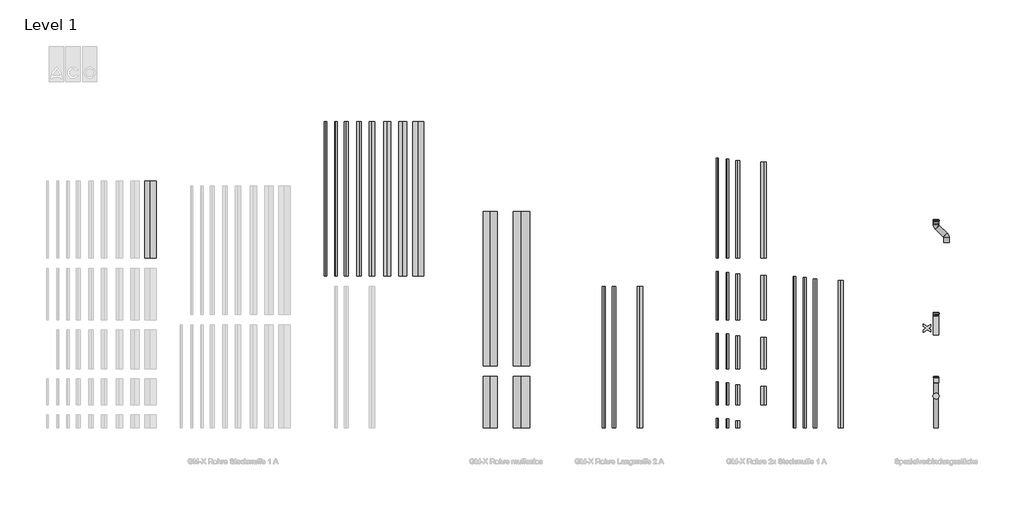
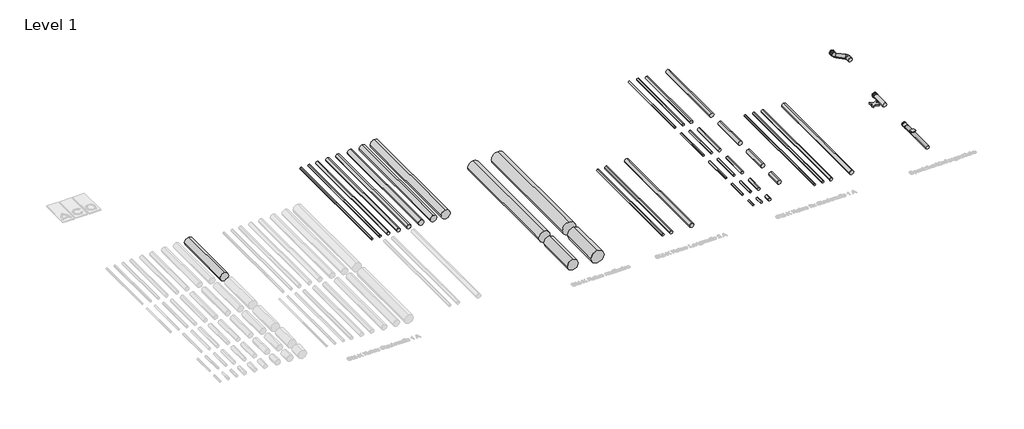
# One storey, part 5 of 7: 39 pipe segments, 4 pipe fittings, 2 valves.
"""IFC4 building model written with IfcOpenShell, lengths in millimetres."""

from ifc_helpers import new_model, si_unit, point, frame, frame_2d, origin, place, context, project, spatial, circle_curve, trimmed, segment, composite_curve, outline, extrude, transform, mapped, element, save
from components import std_49879931, std_nested_473bf3f7, std_nested_0415c611, dn100_200mm_8a0e546f, dn100_200mm_64a89e8e

model = new_model("IFC4")

# Units and contexts
model_context = context("Model", 3, world=origin())
ifc_project = project(units=[si_unit("LENGTHUNIT", "METRE", prefix="MILLI")], contexts=[model_context])

# Site, building, storey
site = spatial("IfcSite", under=ifc_project)
building = spatial("IfcBuilding", under=site)
storey = spatial("IfcBuildingStorey", under=building, Name="Level 1", Elevation=0.0)

# Pipe fittings
placement = place(None, origin())
std_shape = std_49879931(model_context)
element("IfcPipeFitting", 1, ObjectType="PIF_ST_UN_GM-X raindown pipe_ACO : std", at=placement, inside=storey, context=model_context, shape_type="MappedRepresentation", body=[
    mapped(std_shape, transform((17750.0, 435.0, 0.0), x_axis=(0.0, 1.0000000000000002, 0.0), y_axis=(-1.0000000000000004, 0.0, 0.0), z_axis=(0.0, 0.0, 1.0000000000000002))),
])
std_nested_shape = std_nested_473bf3f7(model_context)
element("IfcPipeFitting", 2, ObjectType="ZZZ_do not use_PIF_ST_UN_GM-X seal non transitional_ACO : std (nested)", at=placement, inside=storey, context=model_context, shape_type="MappedRepresentation", body=[
    mapped(std_nested_shape, transform((17750.0, 2241.8, 0.0), x_axis=(0.0, 1.0, 0.0), y_axis=(-1.0000000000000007, 0.0, 0.0), z_axis=(0.0, 0.0, 1.0000000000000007))),
])
element("IfcPipeFitting", 3, ObjectType="ZZZ_do not use_PIF_ST_UN_GM-X seal non transitional_ACO : std (nested)", at=placement, inside=storey, context=model_context, shape_type="MappedRepresentation", body=[
    mapped(std_nested_shape, transform((17750.0, 4043.6, 0.0), x_axis=(0.0, 1.0, 0.0), y_axis=(-1.0000000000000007, 0.0, 0.0), z_axis=(0.0, 0.0, 1.0000000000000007))),
])
std_nested_2_shape = std_nested_0415c611(model_context)
element("IfcPipeFitting", 4, ObjectType="ZZZ_do not use_PIF_ST_UN_GM-X seal non transitional_ACO : std (nested)", at=placement, inside=storey, context=model_context, shape_type="MappedRepresentation", body=[
    mapped(std_nested_2_shape, transform((17750.0, 1000.0, 0.0), x_axis=(0.0, 1.0000000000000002, 0.0), y_axis=(-1.0000000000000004, 0.0, 0.0), z_axis=(0.0, 0.0, 1.0000000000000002))),
])

# Pipe segments
element("IfcPipeSegment", 5, ObjectType="GM-X pipe complex", at=placement, inside=storey, context=model_context, shape_type="SweptSolid", body=[
    extrude(outline(composite_curve([segment(trimmed(circle_curve(frame_2d((0.0, 2500.0)), 109.5), [point((0.0, 2609.5))], [point((109.5, 2500.0))], False, "CARTESIAN"), True, "CONTINUOUS"), segment(trimmed(circle_curve(frame_2d((0.0, 2500.0)), 109.5), [point((109.5, 2500.0))], [point((0.0, 2390.5))], False, "CARTESIAN"), True, "CONTINUOUS"), segment(trimmed(circle_curve(frame_2d((0.0, 2500.0)), 109.5), [point((0.0, 2390.5))], [point((-109.5, 2500.0))], False, "CARTESIAN"), True, "CONTINUOUS"), segment(trimmed(circle_curve(frame_2d((0.0, 2500.0)), 109.5), [point((-109.5, 2500.0))], [point((0.0, 2609.5))], False, "CARTESIAN"), True, "CONTINUOUS")], self_intersect=False)), frame((0.0, 3300.0, 0.0), z_axis=(0.0, 1.0, 0.0), x_axis=(0.0, 0.0, 1.0)), (0.0, 0.0, 1.0), 1500.0),
])
element("IfcPipeSegment", 6, ObjectType="GM-X pipe complex", at=placement, inside=storey, context=model_context, shape_type="SweptSolid", body=[
    extrude(outline(composite_curve([segment(trimmed(circle_curve(frame_2d((0.0, 5900.0)), 21.5), [point((0.0, 5921.5))], [point((21.5, 5900.0))], False, "CARTESIAN"), True, "CONTINUOUS"), segment(trimmed(circle_curve(frame_2d((0.0, 5900.0)), 21.5), [point((21.5, 5900.0))], [point((0.0, 5878.5))], False, "CARTESIAN"), True, "CONTINUOUS"), segment(trimmed(circle_curve(frame_2d((0.0, 5900.0)), 21.5), [point((0.0, 5878.5))], [point((-21.5, 5900.0))], False, "CARTESIAN"), True, "CONTINUOUS"), segment(trimmed(circle_curve(frame_2d((0.0, 5900.0)), 21.5), [point((-21.5, 5900.0))], [point((0.0, 5921.5))], False, "CARTESIAN"), True, "CONTINUOUS")], self_intersect=False)), frame((0.0, 2950.0, 0.0), z_axis=(0.0, 1.0, 0.0), x_axis=(0.0, 0.0, 1.0)), (0.0, 0.0, 1.0), 3000.0),
])
element("IfcPipeSegment", 7, ObjectType="GM-X pipe complex", at=placement, inside=storey, context=model_context, shape_type="SweptSolid", body=[
    extrude(outline(composite_curve([segment(trimmed(circle_curve(frame_2d((0.0, 6100.0)), 26.5), [point((0.0, 6126.5))], [point((26.5, 6100.0))], False, "CARTESIAN"), True, "CONTINUOUS"), segment(trimmed(circle_curve(frame_2d((0.0, 6100.0)), 26.5), [point((26.5, 6100.0))], [point((0.0, 6073.5))], False, "CARTESIAN"), True, "CONTINUOUS"), segment(trimmed(circle_curve(frame_2d((0.0, 6100.0)), 26.5), [point((0.0, 6073.5))], [point((-26.5, 6100.0))], False, "CARTESIAN"), True, "CONTINUOUS"), segment(trimmed(circle_curve(frame_2d((0.0, 6100.0)), 26.5), [point((-26.5, 6100.0))], [point((0.0, 6126.5))], False, "CARTESIAN"), True, "CONTINUOUS")], self_intersect=False)), frame((0.0, 2950.0, 0.0), z_axis=(0.0, 1.0, 0.0), x_axis=(0.0, 0.0, 1.0)), (0.0, 0.0, 1.0), 3000.0),
])
element("IfcPipeSegment", 8, ObjectType="GM-X pipe complex", at=placement, inside=storey, context=model_context, shape_type="SweptSolid", body=[
    extrude(outline(composite_curve([segment(trimmed(circle_curve(frame_2d((0.0, 6300.0)), 36.5), [point((0.0, 6336.5))], [point((36.5, 6300.0))], False, "CARTESIAN"), True, "CONTINUOUS"), segment(trimmed(circle_curve(frame_2d((0.0, 6300.0)), 36.5), [point((36.5, 6300.0))], [point((0.0, 6263.5))], False, "CARTESIAN"), True, "CONTINUOUS"), segment(trimmed(circle_curve(frame_2d((0.0, 6300.0)), 36.5), [point((0.0, 6263.5))], [point((-36.5, 6300.0))], False, "CARTESIAN"), True, "CONTINUOUS"), segment(trimmed(circle_curve(frame_2d((0.0, 6300.0)), 36.5), [point((-36.5, 6300.0))], [point((0.0, 6336.5))], False, "CARTESIAN"), True, "CONTINUOUS")], self_intersect=False)), frame((0.0, 2950.0, 0.0), z_axis=(0.0, 1.0, 0.0), x_axis=(0.0, 0.0, 1.0)), (0.0, 0.0, 1.0), 3000.0),
])
element("IfcPipeSegment", 9, ObjectType="GM-X pipe complex", at=placement, inside=storey, context=model_context, shape_type="SweptSolid", body=[
    extrude(outline(composite_curve([segment(trimmed(circle_curve(frame_2d((0.0, 6550.0)), 44.5), [point((0.0, 6594.5))], [point((44.5, 6550.0))], False, "CARTESIAN"), True, "CONTINUOUS"), segment(trimmed(circle_curve(frame_2d((0.0, 6550.0)), 44.5), [point((44.5, 6550.0))], [point((0.0, 6505.5))], False, "CARTESIAN"), True, "CONTINUOUS"), segment(trimmed(circle_curve(frame_2d((0.0, 6550.0)), 44.5), [point((0.0, 6505.5))], [point((-44.5, 6550.0))], False, "CARTESIAN"), True, "CONTINUOUS"), segment(trimmed(circle_curve(frame_2d((0.0, 6550.0)), 44.5), [point((-44.5, 6550.0))], [point((0.0, 6594.5))], False, "CARTESIAN"), True, "CONTINUOUS")], self_intersect=False)), frame((0.0, 2950.0, 0.0), z_axis=(0.0, 1.0, 0.0), x_axis=(0.0, 0.0, 1.0)), (0.0, 0.0, 1.0), 3000.0),
])
element("IfcPipeSegment", 10, ObjectType="GM-X pipe complex", at=placement, inside=storey, context=model_context, shape_type="SweptSolid", body=[
    extrude(outline(composite_curve([segment(trimmed(circle_curve(frame_2d((0.0, 6800.0)), 51.5), [point((0.0, 6851.5))], [point((51.5, 6800.0))], False, "CARTESIAN"), True, "CONTINUOUS"), segment(trimmed(circle_curve(frame_2d((0.0, 6800.0)), 51.5), [point((51.5, 6800.0))], [point((0.0, 6748.5))], False, "CARTESIAN"), True, "CONTINUOUS"), segment(trimmed(circle_curve(frame_2d((0.0, 6800.0)), 51.5), [point((0.0, 6748.5))], [point((-51.5, 6800.0))], False, "CARTESIAN"), True, "CONTINUOUS"), segment(trimmed(circle_curve(frame_2d((0.0, 6800.0)), 51.5), [point((-51.5, 6800.0))], [point((0.0, 6851.5))], False, "CARTESIAN"), True, "CONTINUOUS")], self_intersect=False)), frame((0.0, 2950.0, 0.0), z_axis=(0.0, 1.0, 0.0), x_axis=(0.0, 0.0, 1.0)), (0.0, 0.0, 1.0), 3000.0),
])
element("IfcPipeSegment", 11, ObjectType="GM-X pipe complex", at=placement, inside=storey, context=model_context, shape_type="SweptSolid", body=[
    extrude(outline(composite_curve([segment(trimmed(circle_curve(frame_2d((0.0, 7100.0)), 66.5), [point((0.0, 7166.5))], [point((66.5, 7100.0))], False, "CARTESIAN"), True, "CONTINUOUS"), segment(trimmed(circle_curve(frame_2d((0.0, 7100.0)), 66.5), [point((66.5, 7100.0))], [point((0.0, 7033.5))], False, "CARTESIAN"), True, "CONTINUOUS"), segment(trimmed(circle_curve(frame_2d((0.0, 7100.0)), 66.5), [point((0.0, 7033.5))], [point((-66.5, 7100.0))], False, "CARTESIAN"), True, "CONTINUOUS"), segment(trimmed(circle_curve(frame_2d((0.0, 7100.0)), 66.5), [point((-66.5, 7100.0))], [point((0.0, 7166.5))], False, "CARTESIAN"), True, "CONTINUOUS")], self_intersect=False)), frame((0.0, 2950.0, 0.0), z_axis=(0.0, 1.0, 0.0), x_axis=(0.0, 0.0, 1.0)), (0.0, 0.0, 1.0), 3000.0),
])
element("IfcPipeSegment", 12, ObjectType="GM-X pipe complex", at=placement, inside=storey, context=model_context, shape_type="SweptSolid", body=[
    extrude(outline(composite_curve([segment(trimmed(circle_curve(frame_2d((0.0, 7400.0)), 79.5), [point((0.0, 7479.5))], [point((79.5, 7400.0))], False, "CARTESIAN"), True, "CONTINUOUS"), segment(trimmed(circle_curve(frame_2d((0.0, 7400.0)), 79.5), [point((79.5, 7400.0))], [point((0.0, 7320.5))], False, "CARTESIAN"), True, "CONTINUOUS"), segment(trimmed(circle_curve(frame_2d((0.0, 7400.0)), 79.5), [point((0.0, 7320.5))], [point((-79.5, 7400.0))], False, "CARTESIAN"), True, "CONTINUOUS"), segment(trimmed(circle_curve(frame_2d((0.0, 7400.0)), 79.5), [point((-79.5, 7400.0))], [point((0.0, 7479.5))], False, "CARTESIAN"), True, "CONTINUOUS")], self_intersect=False)), frame((0.0, 2950.0, 0.0), z_axis=(0.0, 1.0, 0.0), x_axis=(0.0, 0.0, 1.0)), (0.0, 0.0, 1.0), 3000.0),
])
element("IfcPipeSegment", 13, ObjectType="GM-X pipe complex", at=placement, inside=storey, context=model_context, shape_type="SweptSolid", body=[
    extrude(outline(composite_curve([segment(trimmed(circle_curve(frame_2d((0.0, 7700.0)), 109.5), [point((0.0, 7809.5))], [point((109.5, 7700.0))], False, "CARTESIAN"), True, "CONTINUOUS"), segment(trimmed(circle_curve(frame_2d((0.0, 7700.0)), 109.5), [point((109.5, 7700.0))], [point((0.0, 7590.5))], False, "CARTESIAN"), True, "CONTINUOUS"), segment(trimmed(circle_curve(frame_2d((0.0, 7700.0)), 109.5), [point((0.0, 7590.5))], [point((-109.5, 7700.0))], False, "CARTESIAN"), True, "CONTINUOUS"), segment(trimmed(circle_curve(frame_2d((0.0, 7700.0)), 109.5), [point((-109.5, 7700.0))], [point((0.0, 7809.5))], False, "CARTESIAN"), True, "CONTINUOUS")], self_intersect=False)), frame((0.0, 2950.0, 0.0), z_axis=(0.0, 1.0, 0.0), x_axis=(0.0, 0.0, 1.0)), (0.0, 0.0, 1.0), 3000.0),
])
element("IfcPipeSegment", 14, ObjectType="GM-X pipe complex", at=placement, inside=storey, context=model_context, shape_type="SweptSolid", body=[
    extrude(outline(composite_curve([segment(trimmed(circle_curve(frame_2d((0.0, 9100.0)), 136.5), [point((0.0, 9236.5))], [point((136.5, 9100.0))], False, "CARTESIAN"), True, "CONTINUOUS"), segment(trimmed(circle_curve(frame_2d((0.0, 9100.0)), 136.5), [point((136.5, 9100.0))], [point((0.0, 8963.5))], False, "CARTESIAN"), True, "CONTINUOUS"), segment(trimmed(circle_curve(frame_2d((0.0, 9100.0)), 136.5), [point((0.0, 8963.5))], [point((-136.5, 9100.0))], False, "CARTESIAN"), True, "CONTINUOUS"), segment(trimmed(circle_curve(frame_2d((0.0, 9100.0)), 136.5), [point((-136.5, 9100.0))], [point((0.0, 9236.5))], False, "CARTESIAN"), True, "CONTINUOUS")], self_intersect=False)), frame((0.0, 0.0, 0.0), z_axis=(0.0, 1.0, 0.0), x_axis=(0.0, 0.0, 1.0)), (0.0, 0.0, 1.0), 1000.0),
])
element("IfcPipeSegment", 15, ObjectType="GM-X pipe complex", at=placement, inside=storey, context=model_context, shape_type="SweptSolid", body=[
    extrude(outline(composite_curve([segment(trimmed(circle_curve(frame_2d((0.0, 9700.0)), 162.0), [point((0.0, 9862.0))], [point((162.0, 9700.0))], False, "CARTESIAN"), True, "CONTINUOUS"), segment(trimmed(circle_curve(frame_2d((0.0, 9700.0)), 162.0), [point((162.0, 9700.0))], [point((0.0, 9538.0))], False, "CARTESIAN"), True, "CONTINUOUS"), segment(trimmed(circle_curve(frame_2d((0.0, 9700.0)), 162.0), [point((0.0, 9538.0))], [point((-162.0, 9700.0))], False, "CARTESIAN"), True, "CONTINUOUS"), segment(trimmed(circle_curve(frame_2d((0.0, 9700.0)), 162.0), [point((-162.0, 9700.0))], [point((0.0, 9862.0))], False, "CARTESIAN"), True, "CONTINUOUS")], self_intersect=False)), frame((0.0, 0.0, 0.0), z_axis=(0.0, 1.0, 0.0), x_axis=(0.0, 0.0, 1.0)), (0.0, 0.0, 1.0), 1000.0),
])
element("IfcPipeSegment", 16, ObjectType="GM-X pipe complex", at=placement, inside=storey, context=model_context, shape_type="SweptSolid", body=[
    extrude(outline(composite_curve([segment(trimmed(circle_curve(frame_2d((0.0, 9100.0)), 136.5), [point((0.0, 9236.5))], [point((136.5, 9100.0))], False, "CARTESIAN"), True, "CONTINUOUS"), segment(trimmed(circle_curve(frame_2d((0.0, 9100.0)), 136.5), [point((136.5, 9100.0))], [point((0.0, 8963.5))], False, "CARTESIAN"), True, "CONTINUOUS"), segment(trimmed(circle_curve(frame_2d((0.0, 9100.0)), 136.5), [point((0.0, 8963.5))], [point((-136.5, 9100.0))], False, "CARTESIAN"), True, "CONTINUOUS"), segment(trimmed(circle_curve(frame_2d((0.0, 9100.0)), 136.5), [point((-136.5, 9100.0))], [point((0.0, 9236.5))], False, "CARTESIAN"), True, "CONTINUOUS")], self_intersect=False)), frame((0.0, 1200.0, 0.0), z_axis=(0.0, 1.0, 0.0), x_axis=(0.0, 0.0, 1.0)), (0.0, 0.0, 1.0), 3000.0),
])
element("IfcPipeSegment", 17, ObjectType="GM-X pipe complex", at=placement, inside=storey, context=model_context, shape_type="SweptSolid", body=[
    extrude(outline(composite_curve([segment(trimmed(circle_curve(frame_2d((0.0, 9700.0)), 162.0), [point((0.0, 9862.0))], [point((162.0, 9700.0))], False, "CARTESIAN"), True, "CONTINUOUS"), segment(trimmed(circle_curve(frame_2d((0.0, 9700.0)), 162.0), [point((162.0, 9700.0))], [point((0.0, 9538.0))], False, "CARTESIAN"), True, "CONTINUOUS"), segment(trimmed(circle_curve(frame_2d((0.0, 9700.0)), 162.0), [point((0.0, 9538.0))], [point((-162.0, 9700.0))], False, "CARTESIAN"), True, "CONTINUOUS"), segment(trimmed(circle_curve(frame_2d((0.0, 9700.0)), 162.0), [point((-162.0, 9700.0))], [point((0.0, 9862.0))], False, "CARTESIAN"), True, "CONTINUOUS")], self_intersect=False)), frame((0.0, 1200.0, 0.0), z_axis=(0.0, 1.0, 0.0), x_axis=(0.0, 0.0, 1.0)), (0.0, 0.0, 1.0), 3000.0),
])
element("IfcPipeSegment", 18, ObjectType="GM-X pipe complex", at=placement, inside=storey, context=model_context, shape_type="SweptSolid", body=[
    extrude(outline(composite_curve([segment(trimmed(circle_curve(frame_2d((0.0, 11300.0)), 26.5), [point((0.0, 11326.5))], [point((26.5, 11300.0))], False, "CARTESIAN"), True, "CONTINUOUS"), segment(trimmed(circle_curve(frame_2d((0.0, 11300.0)), 26.5), [point((26.5, 11300.0))], [point((0.0, 11273.5))], False, "CARTESIAN"), True, "CONTINUOUS"), segment(trimmed(circle_curve(frame_2d((0.0, 11300.0)), 26.5), [point((0.0, 11273.5))], [point((-26.5, 11300.0))], False, "CARTESIAN"), True, "CONTINUOUS"), segment(trimmed(circle_curve(frame_2d((0.0, 11300.0)), 26.5), [point((-26.5, 11300.0))], [point((0.0, 11326.5))], False, "CARTESIAN"), True, "CONTINUOUS")], self_intersect=False)), frame((0.0, 0.0, 0.0), z_axis=(0.0, 1.0, 0.0), x_axis=(0.0, 0.0, 1.0)), (0.0, 0.0, 1.0), 2750.0),
])
element("IfcPipeSegment", 19, ObjectType="GM-X pipe complex", at=placement, inside=storey, context=model_context, shape_type="SweptSolid", body=[
    extrude(outline(composite_curve([segment(trimmed(circle_curve(frame_2d((0.0, 11500.0)), 36.5), [point((0.0, 11536.5))], [point((36.5, 11500.0))], False, "CARTESIAN"), True, "CONTINUOUS"), segment(trimmed(circle_curve(frame_2d((0.0, 11500.0)), 36.5), [point((36.5, 11500.0))], [point((0.0, 11463.5))], False, "CARTESIAN"), True, "CONTINUOUS"), segment(trimmed(circle_curve(frame_2d((0.0, 11500.0)), 36.5), [point((0.0, 11463.5))], [point((-36.5, 11500.0))], False, "CARTESIAN"), True, "CONTINUOUS"), segment(trimmed(circle_curve(frame_2d((0.0, 11500.0)), 36.5), [point((-36.5, 11500.0))], [point((0.0, 11536.5))], False, "CARTESIAN"), True, "CONTINUOUS")], self_intersect=False)), frame((0.0, 0.0, 0.0), z_axis=(0.0, 1.0, 0.0), x_axis=(0.0, 0.0, 1.0)), (0.0, 0.0, 1.0), 2750.0),
])
element("IfcPipeSegment", 20, ObjectType="GM-X pipe complex", at=placement, inside=storey, context=model_context, shape_type="SweptSolid", body=[
    extrude(outline(composite_curve([segment(trimmed(circle_curve(frame_2d((0.0, 12000.0)), 51.5), [point((0.0, 12051.5))], [point((51.5, 12000.0))], False, "CARTESIAN"), True, "CONTINUOUS"), segment(trimmed(circle_curve(frame_2d((0.0, 12000.0)), 51.5), [point((51.5, 12000.0))], [point((0.0, 11948.5))], False, "CARTESIAN"), True, "CONTINUOUS"), segment(trimmed(circle_curve(frame_2d((0.0, 12000.0)), 51.5), [point((0.0, 11948.5))], [point((-51.5, 12000.0))], False, "CARTESIAN"), True, "CONTINUOUS"), segment(trimmed(circle_curve(frame_2d((0.0, 12000.0)), 51.5), [point((-51.5, 12000.0))], [point((0.0, 12051.5))], False, "CARTESIAN"), True, "CONTINUOUS")], self_intersect=False)), frame((0.0, 0.0, 0.0), z_axis=(0.0, 1.0, 0.0), x_axis=(0.0, 0.0, 1.0)), (0.0, 0.0, 1.0), 2750.0),
])
element("IfcPipeSegment", 21, ObjectType="GM-X pipe complex", at=placement, inside=storey, context=model_context, shape_type="SweptSolid", body=[
    extrude(outline(composite_curve([segment(trimmed(circle_curve(frame_2d((0.0, 13500.0)), 21.5), [point((0.0, 13521.5))], [point((21.5, 13500.0))], False, "CARTESIAN"), True, "CONTINUOUS"), segment(trimmed(circle_curve(frame_2d((0.0, 13500.0)), 21.5), [point((21.5, 13500.0))], [point((0.0, 13478.5))], False, "CARTESIAN"), True, "CONTINUOUS"), segment(trimmed(circle_curve(frame_2d((0.0, 13500.0)), 21.5), [point((0.0, 13478.5))], [point((-21.5, 13500.0))], False, "CARTESIAN"), True, "CONTINUOUS"), segment(trimmed(circle_curve(frame_2d((0.0, 13500.0)), 21.5), [point((-21.5, 13500.0))], [point((0.0, 13521.5))], False, "CARTESIAN"), True, "CONTINUOUS")], self_intersect=False)), frame((0.0, 0.0, 0.0), z_axis=(0.0, 1.0, 0.0), x_axis=(0.0, 0.0, 1.0)), (0.0, 0.0, 1.0), 190.0),
])
element("IfcPipeSegment", 22, ObjectType="GM-X pipe complex", at=placement, inside=storey, context=model_context, shape_type="SweptSolid", body=[
    extrude(outline(composite_curve([segment(trimmed(circle_curve(frame_2d((0.0, 13700.0)), 26.5), [point((0.0, 13726.5))], [point((26.5, 13700.0))], False, "CARTESIAN"), True, "CONTINUOUS"), segment(trimmed(circle_curve(frame_2d((0.0, 13700.0)), 26.5), [point((26.5, 13700.0))], [point((0.0, 13673.5))], False, "CARTESIAN"), True, "CONTINUOUS"), segment(trimmed(circle_curve(frame_2d((0.0, 13700.0)), 26.5), [point((0.0, 13673.5))], [point((-26.5, 13700.0))], False, "CARTESIAN"), True, "CONTINUOUS"), segment(trimmed(circle_curve(frame_2d((0.0, 13700.0)), 26.5), [point((-26.5, 13700.0))], [point((0.0, 13726.5))], False, "CARTESIAN"), True, "CONTINUOUS")], self_intersect=False)), frame((0.0, 0.0, 0.0), z_axis=(0.0, 1.0, 0.0), x_axis=(0.0, 0.0, 1.0)), (0.0, 0.0, 1.0), 174.0),
])
element("IfcPipeSegment", 23, ObjectType="GM-X pipe complex", at=placement, inside=storey, context=model_context, shape_type="SweptSolid", body=[
    extrude(outline(composite_curve([segment(trimmed(circle_curve(frame_2d((0.0, 13900.0)), 36.5), [point((0.0, 13936.5))], [point((36.5, 13900.0))], False, "CARTESIAN"), True, "CONTINUOUS"), segment(trimmed(circle_curve(frame_2d((0.0, 13900.0)), 36.5), [point((36.5, 13900.0))], [point((0.0, 13863.5))], False, "CARTESIAN"), True, "CONTINUOUS"), segment(trimmed(circle_curve(frame_2d((0.0, 13900.0)), 36.5), [point((0.0, 13863.5))], [point((-36.5, 13900.0))], False, "CARTESIAN"), True, "CONTINUOUS"), segment(trimmed(circle_curve(frame_2d((0.0, 13900.0)), 36.5), [point((-36.5, 13900.0))], [point((0.0, 13936.5))], False, "CARTESIAN"), True, "CONTINUOUS")], self_intersect=False)), frame((0.0, 0.0, 0.0), z_axis=(0.0, 1.0, 0.0), x_axis=(0.0, 0.0, 1.0)), (0.0, 0.0, 1.0), 140.0),
])
element("IfcPipeSegment", 24, ObjectType="GM-X pipe complex", at=placement, inside=storey, context=model_context, shape_type="SweptSolid", body=[
    extrude(outline(composite_curve([segment(trimmed(circle_curve(frame_2d((0.0, 13500.0)), 21.5), [point((0.0, 13521.5))], [point((21.5, 13500.0))], False, "CARTESIAN"), True, "CONTINUOUS"), segment(trimmed(circle_curve(frame_2d((0.0, 13500.0)), 21.5), [point((21.5, 13500.0))], [point((0.0, 13478.5))], False, "CARTESIAN"), True, "CONTINUOUS"), segment(trimmed(circle_curve(frame_2d((0.0, 13500.0)), 21.5), [point((0.0, 13478.5))], [point((-21.5, 13500.0))], False, "CARTESIAN"), True, "CONTINUOUS"), segment(trimmed(circle_curve(frame_2d((0.0, 13500.0)), 21.5), [point((-21.5, 13500.0))], [point((0.0, 13521.5))], False, "CARTESIAN"), True, "CONTINUOUS")], self_intersect=False)), frame((0.0, 450.0, 0.0), z_axis=(0.0, 1.0, 0.0), x_axis=(0.0, 0.0, 1.0)), (0.0, 0.0, 1.0), 440.0),
])
element("IfcPipeSegment", 25, ObjectType="GM-X pipe complex", at=placement, inside=storey, context=model_context, shape_type="SweptSolid", body=[
    extrude(outline(composite_curve([segment(trimmed(circle_curve(frame_2d((0.0, 13700.0)), 26.5), [point((0.0, 13726.5))], [point((26.5, 13700.0))], False, "CARTESIAN"), True, "CONTINUOUS"), segment(trimmed(circle_curve(frame_2d((0.0, 13700.0)), 26.5), [point((26.5, 13700.0))], [point((0.0, 13673.5))], False, "CARTESIAN"), True, "CONTINUOUS"), segment(trimmed(circle_curve(frame_2d((0.0, 13700.0)), 26.5), [point((0.0, 13673.5))], [point((-26.5, 13700.0))], False, "CARTESIAN"), True, "CONTINUOUS"), segment(trimmed(circle_curve(frame_2d((0.0, 13700.0)), 26.5), [point((-26.5, 13700.0))], [point((0.0, 13726.5))], False, "CARTESIAN"), True, "CONTINUOUS")], self_intersect=False)), frame((0.0, 450.0, 0.0), z_axis=(0.0, 1.0, 0.0), x_axis=(0.0, 0.0, 1.0)), (0.0, 0.0, 1.0), 424.0),
])
element("IfcPipeSegment", 26, ObjectType="GM-X pipe complex", at=placement, inside=storey, context=model_context, shape_type="SweptSolid", body=[
    extrude(outline(composite_curve([segment(trimmed(circle_curve(frame_2d((0.0, 13900.0)), 36.5), [point((0.0, 13936.5))], [point((36.5, 13900.0))], False, "CARTESIAN"), True, "CONTINUOUS"), segment(trimmed(circle_curve(frame_2d((0.0, 13900.0)), 36.5), [point((36.5, 13900.0))], [point((0.0, 13863.5))], False, "CARTESIAN"), True, "CONTINUOUS"), segment(trimmed(circle_curve(frame_2d((0.0, 13900.0)), 36.5), [point((0.0, 13863.5))], [point((-36.5, 13900.0))], False, "CARTESIAN"), True, "CONTINUOUS"), segment(trimmed(circle_curve(frame_2d((0.0, 13900.0)), 36.5), [point((-36.5, 13900.0))], [point((0.0, 13936.5))], False, "CARTESIAN"), True, "CONTINUOUS")], self_intersect=False)), frame((0.0, 450.0, 0.0), z_axis=(0.0, 1.0, 0.0), x_axis=(0.0, 0.0, 1.0)), (0.0, 0.0, 1.0), 390.0),
])
element("IfcPipeSegment", 27, ObjectType="GM-X pipe complex", at=placement, inside=storey, context=model_context, shape_type="SweptSolid", body=[
    extrude(outline(composite_curve([segment(trimmed(circle_curve(frame_2d((0.0, 14400.0)), 51.5), [point((0.0, 14451.5))], [point((51.5, 14400.0))], False, "CARTESIAN"), True, "CONTINUOUS"), segment(trimmed(circle_curve(frame_2d((0.0, 14400.0)), 51.5), [point((51.5, 14400.0))], [point((0.0, 14348.5))], False, "CARTESIAN"), True, "CONTINUOUS"), segment(trimmed(circle_curve(frame_2d((0.0, 14400.0)), 51.5), [point((0.0, 14348.5))], [point((-51.5, 14400.0))], False, "CARTESIAN"), True, "CONTINUOUS"), segment(trimmed(circle_curve(frame_2d((0.0, 14400.0)), 51.5), [point((-51.5, 14400.0))], [point((0.0, 14451.5))], False, "CARTESIAN"), True, "CONTINUOUS")], self_intersect=False)), frame((0.0, 450.0, 0.0), z_axis=(0.0, 1.0, 0.0), x_axis=(0.0, 0.0, 1.0)), (0.0, 0.0, 1.0), 360.0),
])
element("IfcPipeSegment", 28, ObjectType="GM-X pipe complex", at=placement, inside=storey, context=model_context, shape_type="SweptSolid", body=[
    extrude(outline(composite_curve([segment(trimmed(circle_curve(frame_2d((0.0, 13500.0)), 21.5), [point((0.0, 13521.5))], [point((21.5, 13500.0))], False, "CARTESIAN"), True, "CONTINUOUS"), segment(trimmed(circle_curve(frame_2d((0.0, 13500.0)), 21.5), [point((21.5, 13500.0))], [point((0.0, 13478.5))], False, "CARTESIAN"), True, "CONTINUOUS"), segment(trimmed(circle_curve(frame_2d((0.0, 13500.0)), 21.5), [point((0.0, 13478.5))], [point((-21.5, 13500.0))], False, "CARTESIAN"), True, "CONTINUOUS"), segment(trimmed(circle_curve(frame_2d((0.0, 13500.0)), 21.5), [point((-21.5, 13500.0))], [point((0.0, 13521.5))], False, "CARTESIAN"), True, "CONTINUOUS")], self_intersect=False)), frame((0.0, 1150.0, 0.0), z_axis=(0.0, 1.0, 0.0), x_axis=(0.0, 0.0, 1.0)), (0.0, 0.0, 1.0), 690.0),
])
element("IfcPipeSegment", 29, ObjectType="GM-X pipe complex", at=placement, inside=storey, context=model_context, shape_type="SweptSolid", body=[
    extrude(outline(composite_curve([segment(trimmed(circle_curve(frame_2d((0.0, 13700.0)), 26.5), [point((0.0, 13726.5))], [point((26.5, 13700.0))], False, "CARTESIAN"), True, "CONTINUOUS"), segment(trimmed(circle_curve(frame_2d((0.0, 13700.0)), 26.5), [point((26.5, 13700.0))], [point((0.0, 13673.5))], False, "CARTESIAN"), True, "CONTINUOUS"), segment(trimmed(circle_curve(frame_2d((0.0, 13700.0)), 26.5), [point((0.0, 13673.5))], [point((-26.5, 13700.0))], False, "CARTESIAN"), True, "CONTINUOUS"), segment(trimmed(circle_curve(frame_2d((0.0, 13700.0)), 26.5), [point((-26.5, 13700.0))], [point((0.0, 13726.5))], False, "CARTESIAN"), True, "CONTINUOUS")], self_intersect=False)), frame((0.0, 1150.0, 0.0), z_axis=(0.0, 1.0, 0.0), x_axis=(0.0, 0.0, 1.0)), (0.0, 0.0, 1.0), 674.0),
])
element("IfcPipeSegment", 30, ObjectType="GM-X pipe complex", at=placement, inside=storey, context=model_context, shape_type="SweptSolid", body=[
    extrude(outline(composite_curve([segment(trimmed(circle_curve(frame_2d((0.0, 13900.0)), 36.5), [point((0.0, 13936.5))], [point((36.5, 13900.0))], False, "CARTESIAN"), True, "CONTINUOUS"), segment(trimmed(circle_curve(frame_2d((0.0, 13900.0)), 36.5), [point((36.5, 13900.0))], [point((0.0, 13863.5))], False, "CARTESIAN"), True, "CONTINUOUS"), segment(trimmed(circle_curve(frame_2d((0.0, 13900.0)), 36.5), [point((0.0, 13863.5))], [point((-36.5, 13900.0))], False, "CARTESIAN"), True, "CONTINUOUS"), segment(trimmed(circle_curve(frame_2d((0.0, 13900.0)), 36.5), [point((-36.5, 13900.0))], [point((0.0, 13936.5))], False, "CARTESIAN"), True, "CONTINUOUS")], self_intersect=False)), frame((0.0, 1150.0, 0.0), z_axis=(0.0, 1.0, 0.0), x_axis=(0.0, 0.0, 1.0)), (0.0, 0.0, 1.0), 640.0),
])
element("IfcPipeSegment", 31, ObjectType="GM-X pipe complex", at=placement, inside=storey, context=model_context, shape_type="SweptSolid", body=[
    extrude(outline(composite_curve([segment(trimmed(circle_curve(frame_2d((0.0, 14400.0)), 51.5), [point((0.0, 14451.5))], [point((51.5, 14400.0))], False, "CARTESIAN"), True, "CONTINUOUS"), segment(trimmed(circle_curve(frame_2d((0.0, 14400.0)), 51.5), [point((51.5, 14400.0))], [point((0.0, 14348.5))], False, "CARTESIAN"), True, "CONTINUOUS"), segment(trimmed(circle_curve(frame_2d((0.0, 14400.0)), 51.5), [point((0.0, 14348.5))], [point((-51.5, 14400.0))], False, "CARTESIAN"), True, "CONTINUOUS"), segment(trimmed(circle_curve(frame_2d((0.0, 14400.0)), 51.5), [point((-51.5, 14400.0))], [point((0.0, 14451.5))], False, "CARTESIAN"), True, "CONTINUOUS")], self_intersect=False)), frame((0.0, 1150.0, 0.0), z_axis=(0.0, 1.0, 0.0), x_axis=(0.0, 0.0, 1.0)), (0.0, 0.0, 1.0), 610.0),
])
element("IfcPipeSegment", 32, ObjectType="GM-X pipe complex", at=placement, inside=storey, context=model_context, shape_type="SweptSolid", body=[
    extrude(outline(composite_curve([segment(trimmed(circle_curve(frame_2d((0.0, 13500.0)), 21.5), [point((0.0, 13521.5))], [point((21.5, 13500.0))], False, "CARTESIAN"), True, "CONTINUOUS"), segment(trimmed(circle_curve(frame_2d((0.0, 13500.0)), 21.5), [point((21.5, 13500.0))], [point((0.0, 13478.5))], False, "CARTESIAN"), True, "CONTINUOUS"), segment(trimmed(circle_curve(frame_2d((0.0, 13500.0)), 21.5), [point((0.0, 13478.5))], [point((-21.5, 13500.0))], False, "CARTESIAN"), True, "CONTINUOUS"), segment(trimmed(circle_curve(frame_2d((0.0, 13500.0)), 21.5), [point((-21.5, 13500.0))], [point((0.0, 13521.5))], False, "CARTESIAN"), True, "CONTINUOUS")], self_intersect=False)), frame((0.0, 2100.0, 0.0), z_axis=(0.0, 1.0, 0.0), x_axis=(0.0, 0.0, 1.0)), (0.0, 0.0, 1.0), 940.0),
])
element("IfcPipeSegment", 33, ObjectType="GM-X pipe complex", at=placement, inside=storey, context=model_context, shape_type="SweptSolid", body=[
    extrude(outline(composite_curve([segment(trimmed(circle_curve(frame_2d((0.0, 13700.0)), 26.5), [point((0.0, 13726.5))], [point((26.5, 13700.0))], False, "CARTESIAN"), True, "CONTINUOUS"), segment(trimmed(circle_curve(frame_2d((0.0, 13700.0)), 26.5), [point((26.5, 13700.0))], [point((0.0, 13673.5))], False, "CARTESIAN"), True, "CONTINUOUS"), segment(trimmed(circle_curve(frame_2d((0.0, 13700.0)), 26.5), [point((0.0, 13673.5))], [point((-26.5, 13700.0))], False, "CARTESIAN"), True, "CONTINUOUS"), segment(trimmed(circle_curve(frame_2d((0.0, 13700.0)), 26.5), [point((-26.5, 13700.0))], [point((0.0, 13726.5))], False, "CARTESIAN"), True, "CONTINUOUS")], self_intersect=False)), frame((0.0, 2100.0, 0.0), z_axis=(0.0, 1.0, 0.0), x_axis=(0.0, 0.0, 1.0)), (0.0, 0.0, 1.0), 924.0),
])
element("IfcPipeSegment", 34, ObjectType="GM-X pipe complex", at=placement, inside=storey, context=model_context, shape_type="SweptSolid", body=[
    extrude(outline(composite_curve([segment(trimmed(circle_curve(frame_2d((0.0, 13900.0)), 36.5), [point((0.0, 13936.5))], [point((36.5, 13900.0))], False, "CARTESIAN"), True, "CONTINUOUS"), segment(trimmed(circle_curve(frame_2d((0.0, 13900.0)), 36.5), [point((36.5, 13900.0))], [point((0.0, 13863.5))], False, "CARTESIAN"), True, "CONTINUOUS"), segment(trimmed(circle_curve(frame_2d((0.0, 13900.0)), 36.5), [point((0.0, 13863.5))], [point((-36.5, 13900.0))], False, "CARTESIAN"), True, "CONTINUOUS"), segment(trimmed(circle_curve(frame_2d((0.0, 13900.0)), 36.5), [point((-36.5, 13900.0))], [point((0.0, 13936.5))], False, "CARTESIAN"), True, "CONTINUOUS")], self_intersect=False)), frame((0.0, 2100.0, 0.0), z_axis=(0.0, 1.0, 0.0), x_axis=(0.0, 0.0, 1.0)), (0.0, 0.0, 1.0), 890.0),
])
element("IfcPipeSegment", 35, ObjectType="GM-X pipe complex", at=placement, inside=storey, context=model_context, shape_type="SweptSolid", body=[
    extrude(outline(composite_curve([segment(trimmed(circle_curve(frame_2d((0.0, 14400.0)), 51.5), [point((0.0, 14451.5))], [point((51.5, 14400.0))], False, "CARTESIAN"), True, "CONTINUOUS"), segment(trimmed(circle_curve(frame_2d((0.0, 14400.0)), 51.5), [point((51.5, 14400.0))], [point((0.0, 14348.5))], False, "CARTESIAN"), True, "CONTINUOUS"), segment(trimmed(circle_curve(frame_2d((0.0, 14400.0)), 51.5), [point((0.0, 14348.5))], [point((-51.5, 14400.0))], False, "CARTESIAN"), True, "CONTINUOUS"), segment(trimmed(circle_curve(frame_2d((0.0, 14400.0)), 51.5), [point((-51.5, 14400.0))], [point((0.0, 14451.5))], False, "CARTESIAN"), True, "CONTINUOUS")], self_intersect=False)), frame((0.0, 2100.0, 0.0), z_axis=(0.0, 1.0, 0.0), x_axis=(0.0, 0.0, 1.0)), (0.0, 0.0, 1.0), 860.0),
])
element("IfcPipeSegment", 36, ObjectType="GM-X pipe complex", at=placement, inside=storey, context=model_context, shape_type="SweptSolid", body=[
    extrude(outline(composite_curve([segment(trimmed(circle_curve(frame_2d((0.0, 13500.0)), 21.5), [point((0.0, 13521.5))], [point((21.5, 13500.0))], False, "CARTESIAN"), True, "CONTINUOUS"), segment(trimmed(circle_curve(frame_2d((0.0, 13500.0)), 21.5), [point((21.5, 13500.0))], [point((0.0, 13478.5))], False, "CARTESIAN"), True, "CONTINUOUS"), segment(trimmed(circle_curve(frame_2d((0.0, 13500.0)), 21.5), [point((0.0, 13478.5))], [point((-21.5, 13500.0))], False, "CARTESIAN"), True, "CONTINUOUS"), segment(trimmed(circle_curve(frame_2d((0.0, 13500.0)), 21.5), [point((-21.5, 13500.0))], [point((0.0, 13521.5))], False, "CARTESIAN"), True, "CONTINUOUS")], self_intersect=False)), frame((0.0, 3300.0, 0.0), z_axis=(0.0, 1.0, 0.0), x_axis=(0.0, 0.0, 1.0)), (0.0, 0.0, 1.0), 1940.0),
])
element("IfcPipeSegment", 37, ObjectType="GM-X pipe complex", at=placement, inside=storey, context=model_context, shape_type="SweptSolid", body=[
    extrude(outline(composite_curve([segment(trimmed(circle_curve(frame_2d((0.0, 13700.0)), 26.5), [point((0.0, 13726.5))], [point((26.5, 13700.0))], False, "CARTESIAN"), True, "CONTINUOUS"), segment(trimmed(circle_curve(frame_2d((0.0, 13700.0)), 26.5), [point((26.5, 13700.0))], [point((0.0, 13673.5))], False, "CARTESIAN"), True, "CONTINUOUS"), segment(trimmed(circle_curve(frame_2d((0.0, 13700.0)), 26.5), [point((0.0, 13673.5))], [point((-26.5, 13700.0))], False, "CARTESIAN"), True, "CONTINUOUS"), segment(trimmed(circle_curve(frame_2d((0.0, 13700.0)), 26.5), [point((-26.5, 13700.0))], [point((0.0, 13726.5))], False, "CARTESIAN"), True, "CONTINUOUS")], self_intersect=False)), frame((0.0, 3300.0, 0.0), z_axis=(0.0, 1.0, 0.0), x_axis=(0.0, 0.0, 1.0)), (0.0, 0.0, 1.0), 1924.0),
])
element("IfcPipeSegment", 38, ObjectType="GM-X pipe complex", at=placement, inside=storey, context=model_context, shape_type="SweptSolid", body=[
    extrude(outline(composite_curve([segment(trimmed(circle_curve(frame_2d((0.0, 13900.0)), 36.5), [point((0.0, 13936.5))], [point((36.5, 13900.0))], False, "CARTESIAN"), True, "CONTINUOUS"), segment(trimmed(circle_curve(frame_2d((0.0, 13900.0)), 36.5), [point((36.5, 13900.0))], [point((0.0, 13863.5))], False, "CARTESIAN"), True, "CONTINUOUS"), segment(trimmed(circle_curve(frame_2d((0.0, 13900.0)), 36.5), [point((0.0, 13863.5))], [point((-36.5, 13900.0))], False, "CARTESIAN"), True, "CONTINUOUS"), segment(trimmed(circle_curve(frame_2d((0.0, 13900.0)), 36.5), [point((-36.5, 13900.0))], [point((0.0, 13936.5))], False, "CARTESIAN"), True, "CONTINUOUS")], self_intersect=False)), frame((0.0, 3300.0, 0.0), z_axis=(0.0, 1.0, 0.0), x_axis=(0.0, 0.0, 1.0)), (0.0, 0.0, 1.0), 1890.0),
])
element("IfcPipeSegment", 39, ObjectType="GM-X pipe complex", at=placement, inside=storey, context=model_context, shape_type="SweptSolid", body=[
    extrude(outline(composite_curve([segment(trimmed(circle_curve(frame_2d((0.0, 14400.0)), 51.5), [point((0.0, 14451.5))], [point((51.5, 14400.0))], False, "CARTESIAN"), True, "CONTINUOUS"), segment(trimmed(circle_curve(frame_2d((0.0, 14400.0)), 51.5), [point((51.5, 14400.0))], [point((0.0, 14348.5))], False, "CARTESIAN"), True, "CONTINUOUS"), segment(trimmed(circle_curve(frame_2d((0.0, 14400.0)), 51.5), [point((0.0, 14348.5))], [point((-51.5, 14400.0))], False, "CARTESIAN"), True, "CONTINUOUS"), segment(trimmed(circle_curve(frame_2d((0.0, 14400.0)), 51.5), [point((-51.5, 14400.0))], [point((0.0, 14451.5))], False, "CARTESIAN"), True, "CONTINUOUS")], self_intersect=False)), frame((0.0, 3300.0, 0.0), z_axis=(0.0, 1.0, 0.0), x_axis=(0.0, 0.0, 1.0)), (0.0, 0.0, 1.0), 1860.0),
])
element("IfcPipeSegment", 40, ObjectType="GM-X pipe complex", at=placement, inside=storey, context=model_context, shape_type="SweptSolid", body=[
    extrude(outline(composite_curve([segment(trimmed(circle_curve(frame_2d((0.0, 15000.0)), 21.5), [point((0.0, 15021.5))], [point((21.5, 15000.0))], False, "CARTESIAN"), True, "CONTINUOUS"), segment(trimmed(circle_curve(frame_2d((0.0, 15000.0)), 21.5), [point((21.5, 15000.0))], [point((0.0, 14978.5))], False, "CARTESIAN"), True, "CONTINUOUS"), segment(trimmed(circle_curve(frame_2d((0.0, 15000.0)), 21.5), [point((0.0, 14978.5))], [point((-21.5, 15000.0))], False, "CARTESIAN"), True, "CONTINUOUS"), segment(trimmed(circle_curve(frame_2d((0.0, 15000.0)), 21.5), [point((-21.5, 15000.0))], [point((0.0, 15021.5))], False, "CARTESIAN"), True, "CONTINUOUS")], self_intersect=False)), frame((0.0, 0.0, 0.0), z_axis=(0.0, 1.0, 0.0), x_axis=(0.0, 0.0, 1.0)), (0.0, 0.0, 1.0), 2940.0),
])
element("IfcPipeSegment", 41, ObjectType="GM-X pipe complex", at=placement, inside=storey, context=model_context, shape_type="SweptSolid", body=[
    extrude(outline(composite_curve([segment(trimmed(circle_curve(frame_2d((0.0, 15200.0)), 26.5), [point((0.0, 15226.5))], [point((26.5, 15200.0))], False, "CARTESIAN"), True, "CONTINUOUS"), segment(trimmed(circle_curve(frame_2d((0.0, 15200.0)), 26.5), [point((26.5, 15200.0))], [point((0.0, 15173.5))], False, "CARTESIAN"), True, "CONTINUOUS"), segment(trimmed(circle_curve(frame_2d((0.0, 15200.0)), 26.5), [point((0.0, 15173.5))], [point((-26.5, 15200.0))], False, "CARTESIAN"), True, "CONTINUOUS"), segment(trimmed(circle_curve(frame_2d((0.0, 15200.0)), 26.5), [point((-26.5, 15200.0))], [point((0.0, 15226.5))], False, "CARTESIAN"), True, "CONTINUOUS")], self_intersect=False)), frame((0.0, 0.0, 0.0), z_axis=(0.0, 1.0, 0.0), x_axis=(0.0, 0.0, 1.0)), (0.0, 0.0, 1.0), 2924.0),
])
element("IfcPipeSegment", 42, ObjectType="GM-X pipe complex", at=placement, inside=storey, context=model_context, shape_type="SweptSolid", body=[
    extrude(outline(composite_curve([segment(trimmed(circle_curve(frame_2d((0.0, 15400.0)), 36.5), [point((0.0, 15436.5))], [point((36.5, 15400.0))], False, "CARTESIAN"), True, "CONTINUOUS"), segment(trimmed(circle_curve(frame_2d((0.0, 15400.0)), 36.5), [point((36.5, 15400.0))], [point((0.0, 15363.5))], False, "CARTESIAN"), True, "CONTINUOUS"), segment(trimmed(circle_curve(frame_2d((0.0, 15400.0)), 36.5), [point((0.0, 15363.5))], [point((-36.5, 15400.0))], False, "CARTESIAN"), True, "CONTINUOUS"), segment(trimmed(circle_curve(frame_2d((0.0, 15400.0)), 36.5), [point((-36.5, 15400.0))], [point((0.0, 15436.5))], False, "CARTESIAN"), True, "CONTINUOUS")], self_intersect=False)), frame((0.0, 0.0, 0.0), z_axis=(0.0, 1.0, 0.0), x_axis=(0.0, 0.0, 1.0)), (0.0, 0.0, 1.0), 2890.0),
])
element("IfcPipeSegment", 43, ObjectType="GM-X pipe complex", at=placement, inside=storey, context=model_context, shape_type="SweptSolid", body=[
    extrude(outline(composite_curve([segment(trimmed(circle_curve(frame_2d((0.0, 15900.0)), 51.5), [point((0.0, 15951.5))], [point((51.5, 15900.0))], False, "CARTESIAN"), True, "CONTINUOUS"), segment(trimmed(circle_curve(frame_2d((0.0, 15900.0)), 51.5), [point((51.5, 15900.0))], [point((0.0, 15848.5))], False, "CARTESIAN"), True, "CONTINUOUS"), segment(trimmed(circle_curve(frame_2d((0.0, 15900.0)), 51.5), [point((0.0, 15848.5))], [point((-51.5, 15900.0))], False, "CARTESIAN"), True, "CONTINUOUS"), segment(trimmed(circle_curve(frame_2d((0.0, 15900.0)), 51.5), [point((-51.5, 15900.0))], [point((0.0, 15951.5))], False, "CARTESIAN"), True, "CONTINUOUS")], self_intersect=False)), frame((0.0, 0.0, 0.0), z_axis=(0.0, 1.0, 0.0), x_axis=(0.0, 0.0, 1.0)), (0.0, 0.0, 1.0), 2860.0),
])

# Valves
dn100_200mm_shape = dn100_200mm_8a0e546f(model_context)
element("IfcValve", 44, ObjectType="PIA_ST_UN_GM-X s-bend_ACO : DN100 - 200mm", at=placement, inside=storey, context=model_context, shape_type="MappedRepresentation", body=[
    mapped(dn100_200mm_shape, transform((17750.0, 3788.6, 0.0), x_axis=(0.0, -1.0, 0.0), y_axis=(1.0000000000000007, 0.0, 0.0), z_axis=(0.0, 0.0, 1.0000000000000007))),
])
dn100_200mm_2_shape = dn100_200mm_64a89e8e(model_context)
element("IfcValve", 45, ObjectType="PIA_ST_UN_GM-X s-bend_ACO : DN100 - 200mm", at=placement, inside=storey, context=model_context, shape_type="MappedRepresentation", body=[
    mapped(dn100_200mm_2_shape, transform((17750.0, 1986.8, 0.0), x_axis=(0.0, -1.0, 0.0), y_axis=(1.0000000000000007, 0.0, 0.0), z_axis=(0.0, 0.0, 1.0000000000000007))),
])

save(model, "model.ifc")
